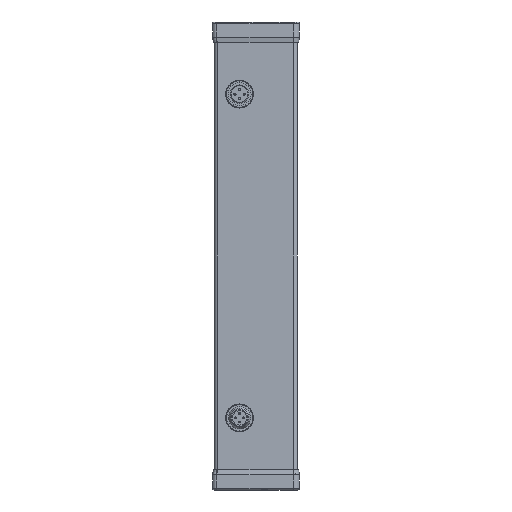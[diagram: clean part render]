
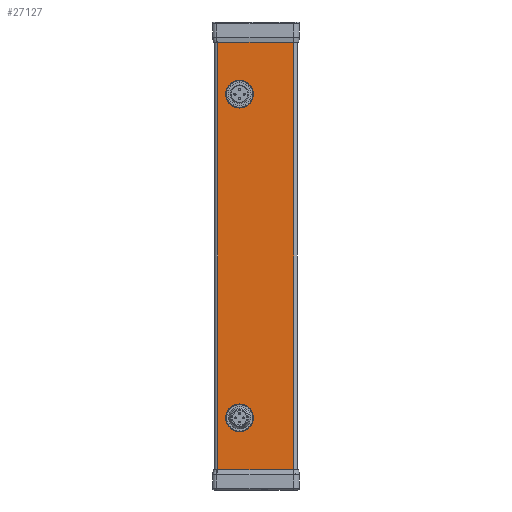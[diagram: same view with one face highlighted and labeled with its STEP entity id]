
A CAD part, left-side view. The second image highlights one B-rep face of the part: STEP entity #27127.
In plain terms, the highlighted planar face has unit normal (-1, 0, 0).
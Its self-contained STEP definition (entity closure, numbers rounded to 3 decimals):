
#27118 = ORIENTED_EDGE ( 'NONE', *, *, #27120, .F. ) ;
#27120 = EDGE_CURVE ( 'NONE', #28000, #27921, #34193, .T. ) ;
#27122 = ORIENTED_EDGE ( 'NONE', *, *, #27932, .F. ) ;
#27125 = EDGE_LOOP ( 'NONE', ( #27118, #27122 ) ) ;
#27127 = ADVANCED_FACE ( 'NONE', ( #34239, #34238, #34237 ), #34221, .T. ) ;
#27151 = ORIENTED_EDGE ( 'NONE', *, *, #27153, .F. ) ;
#27153 = EDGE_CURVE ( 'NONE', #27993, #27809, #34326, .T. ) ;
#27154 = ORIENTED_EDGE ( 'NONE', *, *, #27156, .T. ) ;
#27156 = EDGE_CURVE ( 'NONE', #27685, #27158, #34317, .T. ) ;
#27158 = VERTEX_POINT ( 'NONE', #34313 ) ;
#27183 = EDGE_LOOP ( 'NONE', ( #27185, #27154, #27780, #27615 ) ) ;
#27185 = ORIENTED_EDGE ( 'NONE', *, *, #27754, .F. ) ;
#27328 = EDGE_LOOP ( 'NONE', ( #27151, #27686 ) ) ;
#27615 = ORIENTED_EDGE ( 'NONE', *, *, #27617, .T. ) ;
#27617 = EDGE_CURVE ( 'NONE', #27782, #27759, #35850, .T. ) ;
#27685 = VERTEX_POINT ( 'NONE', #35970 ) ;
#27686 = ORIENTED_EDGE ( 'NONE', *, *, #27810, .F. ) ;
#27754 = EDGE_CURVE ( 'NONE', #27685, #27759, #36084, .T. ) ;
#27759 = VERTEX_POINT ( 'NONE', #36130 ) ;
#27780 = ORIENTED_EDGE ( 'NONE', *, *, #27781, .T. ) ;
#27781 = EDGE_CURVE ( 'NONE', #27158, #27782, #36156, .T. ) ;
#27782 = VERTEX_POINT ( 'NONE', #36152 ) ;
#27809 = VERTEX_POINT ( 'NONE', #36187 ) ;
#27810 = EDGE_CURVE ( 'NONE', #27809, #27993, #36186, .T. ) ;
#27921 = VERTEX_POINT ( 'NONE', #36301 ) ;
#27932 = EDGE_CURVE ( 'NONE', #27921, #28000, #36294, .T. ) ;
#27993 = VERTEX_POINT ( 'NONE', #36370 ) ;
#28000 = VERTEX_POINT ( 'NONE', #36368 ) ;
#34189 = DIRECTION ( 'NONE',  ( 0., -1., 0. ) ) ;
#34190 = DIRECTION ( 'NONE',  ( -1., 0., 0. ) ) ;
#34191 = CARTESIAN_POINT ( 'NONE',  ( 64.421, -33.19, -90. ) ) ;
#34192 = AXIS2_PLACEMENT_3D ( 'NONE', #34191, #34190, #34189 ) ;
#34193 = CIRCLE ( 'NONE', #34192, 4.1 ) ;
#34217 = DIRECTION ( 'NONE',  ( 0., -1., 0. ) ) ;
#34218 = DIRECTION ( 'NONE',  ( -1., 0., 0. ) ) ;
#34219 = CARTESIAN_POINT ( 'NONE',  ( 64.421, -95.203, 115. ) ) ;
#34220 = AXIS2_PLACEMENT_3D ( 'NONE', #34219, #34218, #34217 ) ;
#34221 = PLANE ( 'NONE',  #34220 ) ;
#34237 = FACE_OUTER_BOUND ( 'NONE', #27183, .T. ) ;
#34238 = FACE_BOUND ( 'NONE', #27125, .T. ) ;
#34239 = FACE_BOUND ( 'NONE', #27328, .T. ) ;
#34313 = CARTESIAN_POINT ( 'NONE',  ( 64.421, -62.49, 115. ) ) ;
#34314 = DIRECTION ( 'NONE',  ( 0., 0., 1. ) ) ;
#34315 = VECTOR ( 'NONE', #34314, 1000. ) ;
#34316 = CARTESIAN_POINT ( 'NONE',  ( 64.421, -62.49, 115. ) ) ;
#34317 = LINE ( 'NONE', #34316, #34315 ) ;
#34318 = DIRECTION ( 'NONE',  ( 0., -1., 0. ) ) ;
#34319 = DIRECTION ( 'NONE',  ( -1., 0., 0. ) ) ;
#34320 = CARTESIAN_POINT ( 'NONE',  ( 64.421, -33.19, 85. ) ) ;
#34321 = AXIS2_PLACEMENT_3D ( 'NONE', #34320, #34319, #34318 ) ;
#34326 = CIRCLE ( 'NONE', #34321, 4.1 ) ;
#35847 = DIRECTION ( 'NONE',  ( 0., 0., -1. ) ) ;
#35848 = VECTOR ( 'NONE', #35847, 1000. ) ;
#35849 = CARTESIAN_POINT ( 'NONE',  ( 64.421, -21.49, 115. ) ) ;
#35850 = LINE ( 'NONE', #35849, #35848 ) ;
#35970 = CARTESIAN_POINT ( 'NONE',  ( 64.421, -62.49, -120. ) ) ;
#36081 = DIRECTION ( 'NONE',  ( 0., 1., 0. ) ) ;
#36082 = VECTOR ( 'NONE', #36081, 1000. ) ;
#36083 = CARTESIAN_POINT ( 'NONE',  ( 64.421, -95.203, -120. ) ) ;
#36084 = LINE ( 'NONE', #36083, #36082 ) ;
#36130 = CARTESIAN_POINT ( 'NONE',  ( 64.421, -21.49, -120. ) ) ;
#36152 = CARTESIAN_POINT ( 'NONE',  ( 64.421, -21.49, 115. ) ) ;
#36153 = DIRECTION ( 'NONE',  ( 0., 1., 0. ) ) ;
#36154 = VECTOR ( 'NONE', #36153, 1000. ) ;
#36155 = CARTESIAN_POINT ( 'NONE',  ( 64.421, -95.203, 115. ) ) ;
#36156 = LINE ( 'NONE', #36155, #36154 ) ;
#36182 = DIRECTION ( 'NONE',  ( 0., -1., 0. ) ) ;
#36183 = DIRECTION ( 'NONE',  ( -1., 0., 0. ) ) ;
#36184 = CARTESIAN_POINT ( 'NONE',  ( 64.421, -33.19, 85. ) ) ;
#36185 = AXIS2_PLACEMENT_3D ( 'NONE', #36184, #36183, #36182 ) ;
#36186 = CIRCLE ( 'NONE', #36185, 4.1 ) ;
#36187 = CARTESIAN_POINT ( 'NONE',  ( 64.421, -29.09, 85. ) ) ;
#36290 = DIRECTION ( 'NONE',  ( 0., -1., 0. ) ) ;
#36291 = DIRECTION ( 'NONE',  ( -1., 0., 0. ) ) ;
#36292 = CARTESIAN_POINT ( 'NONE',  ( 64.421, -33.19, -90. ) ) ;
#36293 = AXIS2_PLACEMENT_3D ( 'NONE', #36292, #36291, #36290 ) ;
#36294 = CIRCLE ( 'NONE', #36293, 4.1 ) ;
#36301 = CARTESIAN_POINT ( 'NONE',  ( 64.421, -29.09, -90. ) ) ;
#36368 = CARTESIAN_POINT ( 'NONE',  ( 64.421, -37.29, -90. ) ) ;
#36370 = CARTESIAN_POINT ( 'NONE',  ( 64.421, -37.29, 85. ) ) ;
